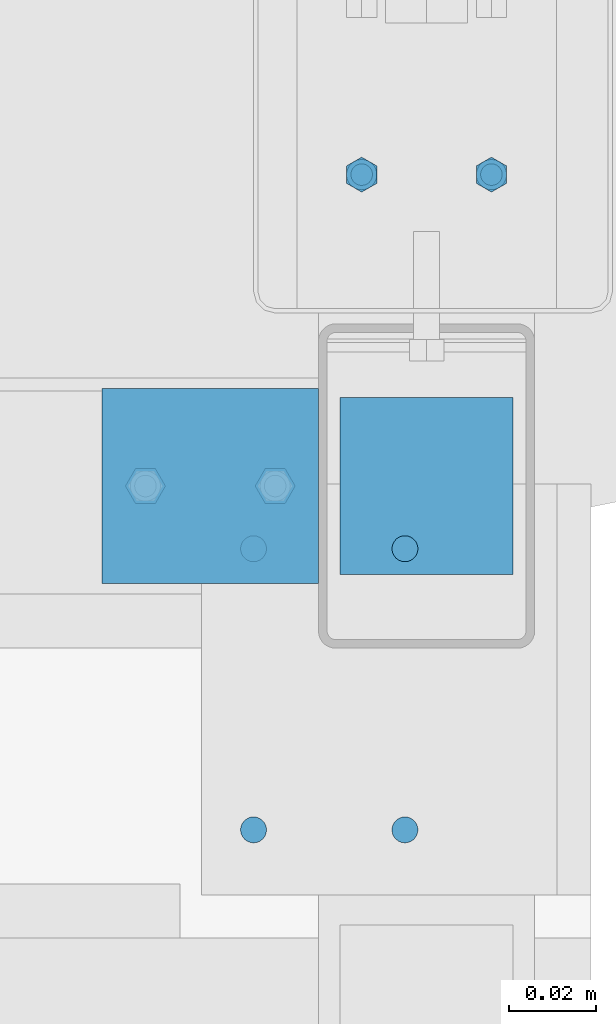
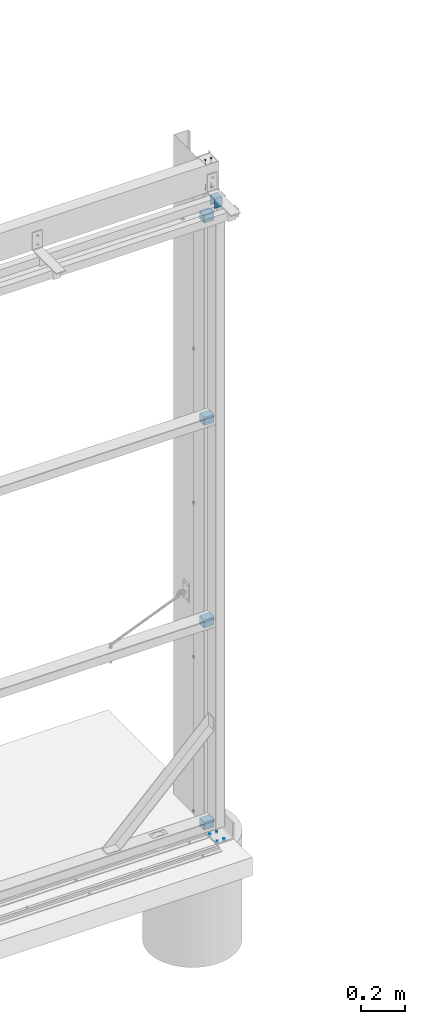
# One storey, part 70 of 91: 5 discrete accessories, 4 mechanical fasteners, 4 elements without a shape of their own.
"""IFC2X3 building model written with IfcOpenShell, lengths in millimetres."""

import ifcopenshell
import ifcopenshell.guid

model = None  # the IFC model being written
_history = None  # IfcOwnerHistory: only IFC2X3 demands one
_inside = {}  # id of a spatial element -> (the spatial element, [elements in it])
_under = {}  # id of a project, library or spatial element -> (it, [spatial elements below it])
_declared = {}  # id of a project -> (the project, [libraries it declares])
_typed = {}  # id of a type object -> (the type object, [elements of that type])
_made_of = {}  # id of a material, layer set ... -> (it, [elements and type objects made of it])


def new_model(schema):
    """Start an empty IFC model of exactly this schema.

    Asked for "IFC4X3", IfcOpenShell would pick the latest addendum, in which some entities
    have other attributes; the version numbers below select the first issue.
    IFC2X3 requires an IfcOwnerHistory on every rooted entity: one is made here for all.
    """
    global model, _history
    if schema == "IFC4X3":
        model = ifcopenshell.file(schema_version=(4, 3, 0, 0))
    else:
        model = ifcopenshell.file(schema=schema)
    _inside.clear()
    _under.clear()
    _declared.clear()
    _typed.clear()
    _made_of.clear()
    _history = None
    if model.schema == "IFC2X3":
        org = make("IfcOrganization", Name="unknown")
        user = make(
            "IfcPersonAndOrganization",
            ThePerson=make("IfcPerson", FamilyName="unknown"),
            TheOrganization=org,
        )
        app = make(
            "IfcApplication",
            ApplicationDeveloper=org,
            Version="unknown",
            ApplicationFullName="unknown",
            ApplicationIdentifier="unknown",
        )
        _history = make(
            "IfcOwnerHistory",
            OwningUser=user,
            OwningApplication=app,
            ChangeAction="ADDED",
            CreationDate=0,
        )
    return model


def make(cls, **values):
    """One entity of the class cls with the attributes given. An attribute that is None is left unset."""
    return model.create_entity(
        cls, **{name: value for name, value in values.items() if value is not None}
    )


def rooted(cls, **values):
    """An entity with a GlobalId (a new one), such as an element, a storey or a relation."""
    return make(cls, GlobalId=ifcopenshell.guid.new(), OwnerHistory=_history, **values)


def si_unit(unit_type, name, prefix=None):
    """IfcSIUnit, for example si_unit("LENGTHUNIT", "METRE", prefix="MILLI")."""
    return make("IfcSIUnit", UnitType=unit_type, Prefix=prefix, Name=name)


def assignment(units):
    """IfcUnitAssignment: the units of a project."""
    return None if units is None else make("IfcUnitAssignment", Units=units)


def point(xyz):
    """IfcCartesianPoint."""
    return None if xyz is None else make("IfcCartesianPoint", Coordinates=xyz)


def direction(xyz):
    """IfcDirection."""
    return None if xyz is None else make("IfcDirection", DirectionRatios=xyz)


def frame(location, z_axis=None, x_axis=None):
    """IfcAxis2Placement3D, a coordinate frame: its origin and axes. An axis left out is left unset."""
    return make(
        "IfcAxis2Placement3D",
        Location=point(location),
        Axis=direction(z_axis),
        RefDirection=direction(x_axis),
    )


def frame_2d(location, x_axis=None):
    """IfcAxis2Placement2D, a coordinate frame in the plane: its origin and x axis."""
    return make(
        "IfcAxis2Placement2D", Location=point(location), RefDirection=direction(x_axis)
    )


def origin_with_axes():
    """The frame at (0, 0, 0) with the z axis (0, 0, 1) and the x axis (1, 0, 0) written out."""
    return frame((0.0, 0.0, 0.0), z_axis=(0.0, 0.0, 1.0), x_axis=(1.0, 0.0, 0.0))


def origin_2d_with_axis():
    """The frame at (0, 0) in the plane with the x axis (1, 0) written out."""
    return frame_2d((0.0, 0.0), x_axis=(1.0, 0.0))


def place(relative_to, where):
    """IfcLocalPlacement: puts the frame where relative to a parent placement (None: the world)."""
    return make(
        "IfcLocalPlacement", PlacementRelTo=relative_to, RelativePlacement=where
    )


def context(
    kind, dimensions, precision=None, world=None, true_north=None, identifier=None
):
    """IfcGeometricRepresentationContext, for example the 3D "Model" context."""
    return make(
        "IfcGeometricRepresentationContext",
        ContextIdentifier=identifier,
        ContextType=kind,
        CoordinateSpaceDimension=dimensions,
        Precision=precision,
        WorldCoordinateSystem=world,
        TrueNorth=true_north,
    )


def subcontext(parent, identifier, kind, view, scale=None):
    """IfcGeometricRepresentationSubContext, for example "Body" below "Model"."""
    return make(
        "IfcGeometricRepresentationSubContext",
        ContextIdentifier=identifier,
        ContextType=kind,
        ParentContext=parent,
        TargetScale=scale,
        TargetView=view,
    )


def project(units=None, contexts=None):
    """IfcProject with its units and contexts."""
    return rooted(
        "IfcProject",
        Name="project",
        RepresentationContexts=contexts,
        UnitsInContext=assignment(units),
    )


def spatial(cls, under=None, at=None, **own):
    """A site, building, storey or space (cls), placed at a placement, below another one or the project."""
    s = rooted(cls, ObjectPlacement=at, **own)
    if under is not None:
        _under.setdefault(under.id(), (under, []))[1].append(s)
    return s


def polyline(points):
    """IfcPolyline through the points."""
    return make("IfcPolyline", Points=[point(p) for p in points])


def profile(cls, at=None, kind="AREA", **sizes):
    """A parametric profile (cls). Its sizes go by their IFC names, for example OverallWidth=200.0."""
    return make(cls, ProfileType=kind, Position=at, **sizes)


def hollow_rectangle(**sizes):
    """IfcRectangleHollowProfileDef."""
    return profile("IfcRectangleHollowProfileDef", **sizes)


def circle(**sizes):
    """IfcCircleProfileDef."""
    return profile("IfcCircleProfileDef", **sizes)


def c_section(**sizes):
    """IfcCShapeProfileDef."""
    return profile("IfcCShapeProfileDef", **sizes)


def outline(outer, holes=None, kind="AREA"):
    """IfcArbitraryClosedProfileDef: a profile drawn as a closed curve; with holes, ...WithVoids."""
    if holes is None:
        return make("IfcArbitraryClosedProfileDef", ProfileType=kind, OuterCurve=outer)
    return make(
        "IfcArbitraryProfileDefWithVoids",
        ProfileType=kind,
        OuterCurve=outer,
        InnerCurves=holes,
    )


def extrude(swept, where, along, depth):
    """IfcExtrudedAreaSolid: the profile swept, set in the frame where, extruded along a direction by depth."""
    return make(
        "IfcExtrudedAreaSolid",
        SweptArea=swept,
        Position=where,
        ExtrudedDirection=direction(along),
        Depth=depth,
    )


def shape(context_of_items, identifier, shape_type, items):
    """IfcShapeRepresentation: the items that make up one representation, for example the "Body"."""
    return make(
        "IfcShapeRepresentation",
        ContextOfItems=context_of_items,
        RepresentationIdentifier=identifier,
        RepresentationType=shape_type,
        Items=items,
    )


def source(mapping_origin, context_of_items, identifier, shape_type, items):
    """IfcRepresentationMap: a shape defined once, which mapped items show again and again."""
    return make(
        "IfcRepresentationMap",
        MappingOrigin=mapping_origin,
        MappedRepresentation=shape(context_of_items, identifier, shape_type, items),
    )


def transform(
    local_origin,
    x_axis=None,
    y_axis=None,
    z_axis=None,
    scale=None,
    scale2=None,
    scale3=None,
    uniform=True,
):
    """IfcCartesianTransformationOperator3D, or its non-uniform kind. x_axis, y_axis, z_axis: its Axis1, 2, 3."""
    if uniform:
        return make(
            "IfcCartesianTransformationOperator3D",
            Axis1=direction(x_axis),
            Axis2=direction(y_axis),
            LocalOrigin=point(local_origin),
            Scale=scale,
            Axis3=direction(z_axis),
        )
    return make(
        "IfcCartesianTransformationOperator3DnonUniform",
        Axis1=direction(x_axis),
        Axis2=direction(y_axis),
        LocalOrigin=point(local_origin),
        Scale=scale,
        Axis3=direction(z_axis),
        Scale2=scale2,
        Scale3=scale3,
    )


def mapped(mapping_source, mapping_target):
    """IfcMappedItem: shows the shape of a source again, moved by a transform."""
    return make(
        "IfcMappedItem", MappingSource=mapping_source, MappingTarget=mapping_target
    )


def material(Name=None, Category=None):
    """IfcMaterial."""
    return make("IfcMaterial", Name=Name, Category=Category)


def made_of(thing, what):
    """Note that an element or type object is made of a material, layer set ...; save() writes the relation."""
    if what is not None:
        _made_of.setdefault(what.id(), (what, []))[1].append(thing)
    return thing


def type_object(cls, material=None, **own):
    """A type object (cls), such as IfcWallType, which elements share."""
    return made_of(rooted(cls, **own), material)


def element(
    cls,
    number,
    at=None,
    inside=None,
    cuts=None,
    type_object=None,
    material=None,
    context=None,
    identifier="Body",
    shape_type=None,
    held_by="IfcProductDefinitionShape",
    body=None,
    shapes=None,
    **own,
):
    """One element of the class cls, such as IfcWall. Its Tag is "e" and its number.

    at: its placement. inside: the storey or other place that contains it. cuts: it is an
    opening in that element (IfcRelVoidsElement). A single representation is given by context,
    identifier, shape_type and body (its items); several are given by shapes. held_by: the class
    of the entity that holds the representations. save() writes the other relations.
    """
    e = rooted(cls, Tag="e%d" % number, ObjectPlacement=at, **own)
    if body is not None:
        shapes = [shape(context, identifier, shape_type, body)]
    if shapes is not None:
        e.Representation = make(held_by, Representations=shapes)
    if inside is not None:
        _inside.setdefault(inside.id(), (inside, []))[1].append(e)
    if cuts is not None:
        rooted(
            "IfcRelVoidsElement", RelatingBuildingElement=cuts, RelatedOpeningElement=e
        )
    if type_object is not None:
        _typed.setdefault(type_object.id(), (type_object, []))[1].append(e)
    return made_of(e, material)


def aggregate(whole, parts):
    """IfcRelAggregates: a whole, such as a stair, and the parts it consists of."""
    return rooted("IfcRelAggregates", RelatingObject=whole, RelatedObjects=parts)


def save(model, path):
    """Write the relations noted so far, then the file.

    IfcRelAggregates (storeys below a building ...), IfcRelContainedInSpatialStructure (elements
    in a storey), IfcRelDefinesByType, IfcRelAssociatesMaterial and IfcRelDeclares: one each for
    every whole, place, type object, material and project.
    """
    for whole, parts in _under.values():
        aggregate(whole, parts)
    for where, things in _inside.values():
        rooted(
            "IfcRelContainedInSpatialStructure",
            RelatedElements=things,
            RelatingStructure=where,
        )
    for kind, things in _typed.values():
        rooted("IfcRelDefinesByType", RelatedObjects=things, RelatingType=kind)
    for what, things in _made_of.values():
        rooted("IfcRelAssociatesMaterial", RelatedObjects=things, RelatingMaterial=what)
    for by, libraries in _declared.values():
        rooted("IfcRelDeclares", RelatingContext=by, RelatedDefinitions=libraries)
    model.write(path)


model = new_model("IFC2X3")

# Units and contexts
model_context = context("Model", 3, precision=1e-05, world=origin_with_axes())
body_context = subcontext(model_context, "Body", "Model", "MODEL_VIEW")
ifc_project = project(units=[si_unit("LENGTHUNIT", "METRE", prefix="MILLI"), si_unit("AREAUNIT", "SQUARE_METRE"), si_unit("VOLUMEUNIT", "CUBIC_METRE"), si_unit("MASSUNIT", "GRAM", prefix="KILO"), si_unit("TIMEUNIT", "SECOND"), si_unit("PLANEANGLEUNIT", "RADIAN"), si_unit("SOLIDANGLEUNIT", "STERADIAN"), si_unit("THERMODYNAMICTEMPERATUREUNIT", "DEGREE_CELSIUS"), si_unit("LUMINOUSINTENSITYUNIT", "LUMEN")], contexts=[model_context])

# Site, building, storey
site_placement = place(None, origin_with_axes())
site = spatial("IfcSite", under=ifc_project, at=site_placement, Name="Undefined", CompositionType="ELEMENT")
building_placement = place(site_placement, origin_with_axes())
building = spatial("IfcBuilding", under=site, at=building_placement, Name="Undefined", CompositionType="ELEMENT")
storey_placement = place(building_placement, origin_with_axes())
storey = spatial("IfcBuildingStorey", under=building, at=storey_placement, Name="Undefined", CompositionType="ELEMENT", Elevation=0.0)

# Assembly, mechanical fastener
assembly_1_placement = place(storey_placement, origin_with_axes())
assembly_1 = element("IfcElementAssembly", 1, at=assembly_1_placement, inside=storey, Name="DOOR STOPPER", AssemblyPlace="NOTDEFINED", PredefinedType="RIGID_FRAME")
ifc_material_1 = material(Name="TEK_11TPIM")
discrete_accessory_type_1 = type_object("IfcDiscreteAccessoryType", Name="Bolt assembly")
shared_shape_1 = source(origin_with_axes(), body_context, "Body", "SweptSolid", [
    extrude(circle(Radius=3.0, at=origin_2d_with_axis()), frame((0.0, 0.0, 0.0), z_axis=(0.0, 1.0, 0.0), x_axis=(1.0, 0.0, 0.0)), (0.0, 0.0, 1.0), 7.9),
])
mechanical_fastener_1_placement = place(assembly_1_placement, frame((-107705.84, 87632.6509765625, -49.2), z_axis=(-1.0, 0.0, 0.0), x_axis=(0.0, 1.0, 0.0)))
mechanical_fastener_1 = element("IfcMechanicalFastener", 2, at=mechanical_fastener_1_placement, type_object=discrete_accessory_type_1, material=ifc_material_1, Name="Bolt assembly", NominalDiameter=6.0, NominalLength=7.80000019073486, context=body_context, shape_type="MappedRepresentation", body=[
    mapped(shared_shape_1, transform((0.0, 0.0, 17.5))),
    mapped(shared_shape_1, transform((65.0, 0.0, 17.5))),
    mapped(shared_shape_1, transform((0.0, 0.0, -17.5))),
    mapped(shared_shape_1, transform((65.0, 0.0, -17.5))),
])
aggregate(assembly_1, [mechanical_fastener_1])

assembly_2_placement = place(storey_placement, origin_with_axes())
assembly_2 = element("IfcElementAssembly", 3, at=assembly_2_placement, inside=storey, Name="SLIDING DOOR", AssemblyPlace="NOTDEFINED", PredefinedType="RIGID_FRAME")
shared_shape_2 = source(origin_with_axes(), body_context, "Body", "SweptSolid", [
    extrude(circle(Radius=3.0, at=origin_2d_with_axis()), frame((0.0, 0.1, 0.0), z_axis=(0.0, 1.0, 0.0), x_axis=(1.0, 0.0, 0.0)), (0.0, 0.0, 1.0), 2.0),
    extrude(circle(Radius=3.0, at=origin_2d_with_axis()), frame((0.0, 2.4, 0.0), z_axis=(0.0, 1.0, 0.0), x_axis=(1.0, 0.0, 0.0)), (0.0, 0.0, 1.0), 1.7),
    extrude(outline(polyline([(4.61880215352, 0.0), (2.30940107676, 4.00000000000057), (-2.30940107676, 4.00000000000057), (-4.61880215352, 0.0), (-2.30940107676, -4.00000000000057), (2.30940107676, -4.00000000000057), (4.61880215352, 0.0)])), frame((0.0, -5.0, 0.0), z_axis=(0.0, 1.0, 0.0), x_axis=(1.0, 0.0, 0.0)), (0.0, 0.0, 1.0), 5.0),
    extrude(circle(Radius=3.0, at=origin_2d_with_axis()), frame((0.0, 0.0, 0.0), z_axis=(0.0, 1.0, 0.0), x_axis=(1.0, 0.0, 0.0)), (0.0, 0.0, 1.0), 25.0),
    extrude(circle(Radius=3.0, at=origin_2d_with_axis()), frame((0.0, 4.10000002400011, 0.0), z_axis=(0.0, 1.0, 0.0), x_axis=(1.0, 0.0, 0.0)), (0.0, 0.0, 1.0), 0.1),
    extrude(outline(polyline([(3.46410161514, 0.0), (1.73205080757, 3.00000000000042), (-1.73205080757, 3.00000000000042), (-3.46410161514, 0.0), (-1.73205080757, -3.00000000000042), (1.73205080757, -3.00000000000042), (3.46410161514, 0.0)])), frame((0.0, 4.20000002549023, 0.0), z_axis=(0.0, 1.0, 0.0), x_axis=(1.0, 0.0, 0.0)), (0.0, 0.0, 1.0), 0.1),
])
mechanical_fastener_2_placement = place(assembly_2_placement, frame((-107748.34, 87712.15, 3326.0), z_axis=(0.0, -1.0, 0.0), x_axis=(1.0, 0.0, 0.0)))
mechanical_fastener_2 = element("IfcMechanicalFastener", 4, at=mechanical_fastener_2_placement, type_object=discrete_accessory_type_1, material=ifc_material_1, Name="Bolt assembly", NominalDiameter=6.0, NominalLength=25.0, context=body_context, shape_type="MappedRepresentation", body=[
    mapped(shared_shape_2, transform((0.0, 0.0, 0.0))),
    mapped(shared_shape_2, transform((30.0, 0.0, 0.0))),
])

# Assembly, mechanical fasteners
assembly_3_placement = place(storey_placement, origin_with_axes())
assembly_3 = element("IfcElementAssembly", 5, at=assembly_3_placement, inside=storey, Name="FASCIA BRACKET", AssemblyPlace="NOTDEFINED", PredefinedType="RIGID_FRAME")
ifc_material_2 = material(Name="TEK_16TPIM")
shared_shape_3 = source(origin_with_axes(), body_context, "Body", "SweptSolid", [
    extrude(circle(Radius=3.5, at=origin_2d_with_axis()), frame((0.0, -2.59999694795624, 0.0), z_axis=(0.0, 1.0, 0.0), x_axis=(1.0, 0.0, 0.0)), (0.0, 0.0, 1.0), 1.7),
    extrude(outline(polyline([(4.04145188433, 0.0), (2.020725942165, 3.5000000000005), (-2.020725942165, 3.5000000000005), (-4.04145188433, 0.0), (-2.020725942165, -3.5000000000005), (2.020725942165, -3.5000000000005), (4.04145188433, 0.0)])), frame((0.0, -7.69999694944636, 0.0), z_axis=(0.0, 1.0, 0.0), x_axis=(1.0, 0.0, 0.0)), (0.0, 0.0, 1.0), 5.0),
    extrude(circle(Radius=2.5, at=origin_2d_with_axis()), frame((0.0, -2.69999694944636, 0.0), z_axis=(0.0, 1.0, 0.0), x_axis=(1.0, 0.0, 0.0)), (0.0, 0.0, 1.0), 25.0),
    extrude(circle(Radius=2.5, at=origin_2d_with_axis()), frame((0.0, -2.69999694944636, 0.0), z_axis=(0.0, 1.0, 0.0), x_axis=(1.0, 0.0, 0.0)), (0.0, 0.0, 1.0), 0.1),
    extrude(circle(Radius=2.5, at=origin_2d_with_axis()), frame((0.0, -1.0, 0.0), z_axis=(0.0, 1.0, 0.0), x_axis=(1.0, 0.0, 0.0)), (0.0, 0.0, 1.0), 0.1),
    extrude(outline(polyline([(2.88675134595, 0.0), (1.443375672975, 2.50000000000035), (-1.443375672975, 2.50000000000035), (-2.88675134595, 0.0), (-1.443375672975, -2.50000000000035), (1.443375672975, -2.50000000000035), (2.88675134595, 0.0)])), frame((0.0, -0.899996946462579, 0.0), z_axis=(0.0, 1.0, 0.0), x_axis=(1.0, 0.0, 0.0)), (0.0, 0.0, 1.0), 0.1),
])
mechanical_fastener_3_placement = place(assembly_3_placement, frame((-107683.339999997, 87784.1514572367, 3444.01721782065), z_axis=(-1.0, 0.0, 0.0), x_axis=(0.0, -1.0, 0.0)))
mechanical_fastener_3 = element("IfcMechanicalFastener", 6, at=mechanical_fastener_3_placement, type_object=discrete_accessory_type_1, material=ifc_material_2, Name="Bolt assembly", NominalDiameter=5.0, NominalLength=25.0, context=body_context, shape_type="MappedRepresentation", body=[
    mapped(shared_shape_3, transform((0.0, 0.0, -15.0))),
    mapped(shared_shape_3, transform((0.0, 0.0, 15.0))),
])
mechanical_fastener_4_placement = place(assembly_3_placement, frame((-107683.339999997, 87784.1514572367, 3596.01721782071), z_axis=(1.0, 0.0, 0.0), x_axis=(0.0, -1.0, 0.0)))
mechanical_fastener_4 = element("IfcMechanicalFastener", 7, at=mechanical_fastener_4_placement, type_object=discrete_accessory_type_1, material=ifc_material_2, Name="Bolt assembly", NominalDiameter=5.0, NominalLength=25.0, context=body_context, shape_type="MappedRepresentation", body=[
    mapped(shared_shape_3, transform((0.0, 0.0, -15.0))),
    mapped(shared_shape_3, transform((0.0, 0.0, 15.0))),
])
aggregate(assembly_3, [mechanical_fastener_3, mechanical_fastener_4])

# Assembly, discrete accessory
assembly_4_placement = place(storey_placement, origin_with_axes())
assembly_4 = element("IfcElementAssembly", 8, at=assembly_4_placement, inside=storey, Name="DOOR BRACKET", AssemblyPlace="NOTDEFINED", PredefinedType="RIGID_FRAME")
ifc_material_3 = material(Name="STEEL/250")
discrete_accessory_type_2 = type_object("IfcDiscreteAccessoryType", Name="SLIDING DOOR BRACKET")
discrete_accessory_1_placement = place(assembly_4_placement, frame((-107703.34, 87712.15, 3417.5), z_axis=(0.0, -1.0, 0.0), x_axis=(1.0, 0.0, 0.0)))
discrete_accessory_1 = element("IfcDiscreteAccessory", 9, at=discrete_accessory_1_placement, type_object=discrete_accessory_type_2, material=ifc_material_3, Name="SLIDING DOOR BRACKET", ObjectType="CC41-1.5-7-53", context=body_context, shape_type="SweptSolid", body=[
    extrude(c_section(Depth=41.0, Width=53.0, WallThickness=1.5, Girth=7.0, at=origin_2d_with_axis()), frame((40.0, 0.0, 0.0), z_axis=(-1.0, 0.0, 0.0), x_axis=(0.0, -1.0, 0.0)), (0.0, 0.0, 1.0), 40.0),
])
aggregate(assembly_4, [discrete_accessory_1])

# Discrete accessory
ifc_material_4 = material(Name="STEEL/300")
discrete_accessory_type_3 = type_object("IfcDiscreteAccessoryType", Name="SLIDING DOOR")
discrete_accessory_2_placement = place(assembly_2_placement, frame((-107708.34, 87712.15, 3351.0), z_axis=(0.0, -1.0, 0.0), x_axis=(-1.0, 0.0, 0.0)))
discrete_accessory_2 = element("IfcDiscreteAccessory", 10, at=discrete_accessory_2_placement, type_object=discrete_accessory_type_3, material=ifc_material_4, Name="SLIDING DOOR", ObjectType="SHS:45X45X1.6", context=body_context, shape_type="SweptSolid", body=[
    extrude(hollow_rectangle(XDim=45.0, YDim=45.0, WallThickness=1.600000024, InnerFilletRadius=1.600000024, OuterFilletRadius=3.200000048, at=origin_2d_with_axis()), frame((50.0, 0.0, 0.0), z_axis=(-1.0, 0.0, 0.0), x_axis=(0.0, -1.0, 0.0)), (0.0, 0.0, 1.0), 50.0),
])

discrete_accessory_3_placement = place(assembly_2_placement, frame((-107708.34, 87712.15, 2236.66), z_axis=(0.0, -1.0, 0.0), x_axis=(-1.0, 0.0, 0.0)))
discrete_accessory_3 = element("IfcDiscreteAccessory", 11, at=discrete_accessory_3_placement, type_object=discrete_accessory_type_3, material=ifc_material_4, Name="SLIDING DOOR", ObjectType="SHS:45X45X1.6", context=body_context, shape_type="SweptSolid", body=[
    extrude(hollow_rectangle(XDim=45.0, YDim=45.0, WallThickness=1.600000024, InnerFilletRadius=1.600000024, OuterFilletRadius=3.200000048, at=origin_2d_with_axis()), frame((50.0, 0.0, 0.0), z_axis=(-1.0, 0.0, 0.0), x_axis=(0.0, -1.0, 0.0)), (0.0, 0.0, 1.0), 50.0),
])

discrete_accessory_4_placement = place(assembly_2_placement, frame((-107708.34, 87712.15, 1122.34), z_axis=(0.0, -1.0, 0.0), x_axis=(-1.0, 0.0, 0.0)))
discrete_accessory_4 = element("IfcDiscreteAccessory", 12, at=discrete_accessory_4_placement, type_object=discrete_accessory_type_3, material=ifc_material_4, Name="SLIDING DOOR", ObjectType="SHS:45X45X1.6", context=body_context, shape_type="SweptSolid", body=[
    extrude(hollow_rectangle(XDim=45.0, YDim=45.0, WallThickness=1.600000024, InnerFilletRadius=1.600000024, OuterFilletRadius=3.200000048, at=origin_2d_with_axis()), frame((50.0, 0.0, 0.0), z_axis=(-1.0, 0.0, 0.0), x_axis=(0.0, -1.0, 0.0)), (0.0, 0.0, 1.0), 50.0),
])

discrete_accessory_5_placement = place(assembly_2_placement, frame((-107708.34, 87712.15, 8.0), z_axis=(0.0, -1.0, 0.0), x_axis=(-1.0, 0.0, 0.0)))
discrete_accessory_5 = element("IfcDiscreteAccessory", 13, at=discrete_accessory_5_placement, type_object=discrete_accessory_type_3, material=ifc_material_4, Name="SLIDING DOOR", ObjectType="SHS:45X45X1.6", context=body_context, shape_type="SweptSolid", body=[
    extrude(hollow_rectangle(XDim=45.0, YDim=45.0, WallThickness=1.600000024, InnerFilletRadius=1.600000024, OuterFilletRadius=3.200000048, at=origin_2d_with_axis()), frame((50.0, 0.0, 0.0), z_axis=(-1.0, 0.0, 0.0), x_axis=(0.0, -1.0, 0.0)), (0.0, 0.0, 1.0), 50.0),
])

aggregate(assembly_2, [mechanical_fastener_2, discrete_accessory_2, discrete_accessory_3, discrete_accessory_4, discrete_accessory_5])

save(model, "model.ifc")
